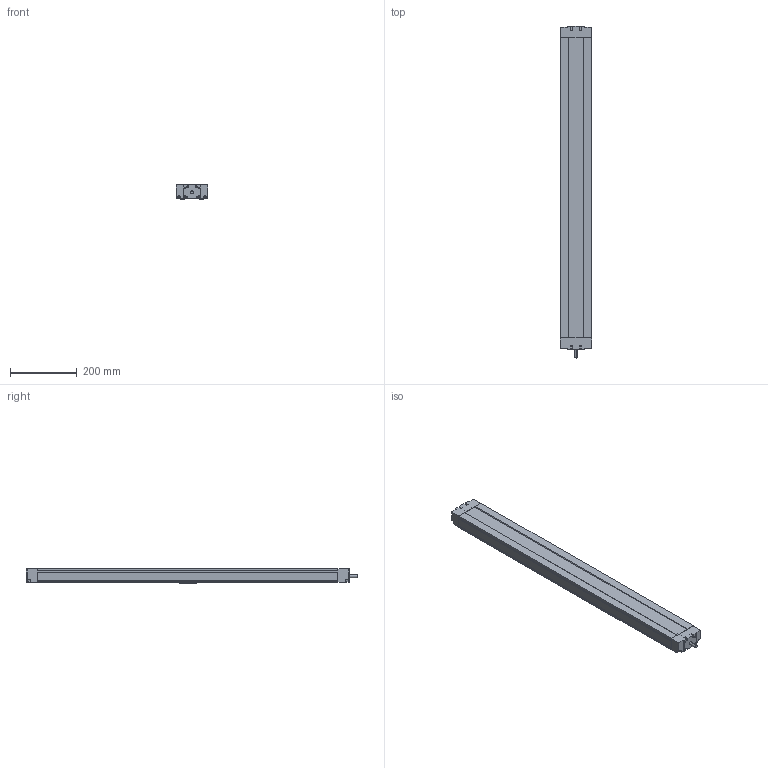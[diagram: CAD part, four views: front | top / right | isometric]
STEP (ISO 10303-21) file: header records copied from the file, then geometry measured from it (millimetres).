
FILE_DESCRIPTION (( 'STEP AP203' ), '1' );
FILE_NAME ('MSY94B-800-LL1210-P7.STEP', '2013-11-02T03:28:51', ( '微软用户' ), ( '微软中国' ), 'SwSTEP 2.0', 'SolidWorks 2010', '' );
FILE_SCHEMA (( 'CONFIG_CONTROL_DESIGN' ));
Length unit declared in the file: millimetre
Products named in the file (1): MSY94B-800-LL1210-P7
Bounding box: 94 x 995 x 44.5 mm (x, y, z)
Volume: 3023997 mm3; surface area: 572604.5 mm2
Topology: 1 solids, 1 shells, 312 faces, 856 edges, 544 vertices
Faces by surface type: plane 222, cylinder 74, cone 16
Entity records: 9777 total; most frequent: CARTESIAN_POINT 1697, ORIENTED_EDGE 1680, DIRECTION 1622, EDGE_CURVE 840, LINE 684, VECTOR 684, VERTEX_POINT 544, AXIS2_PLACEMENT_3D 469
